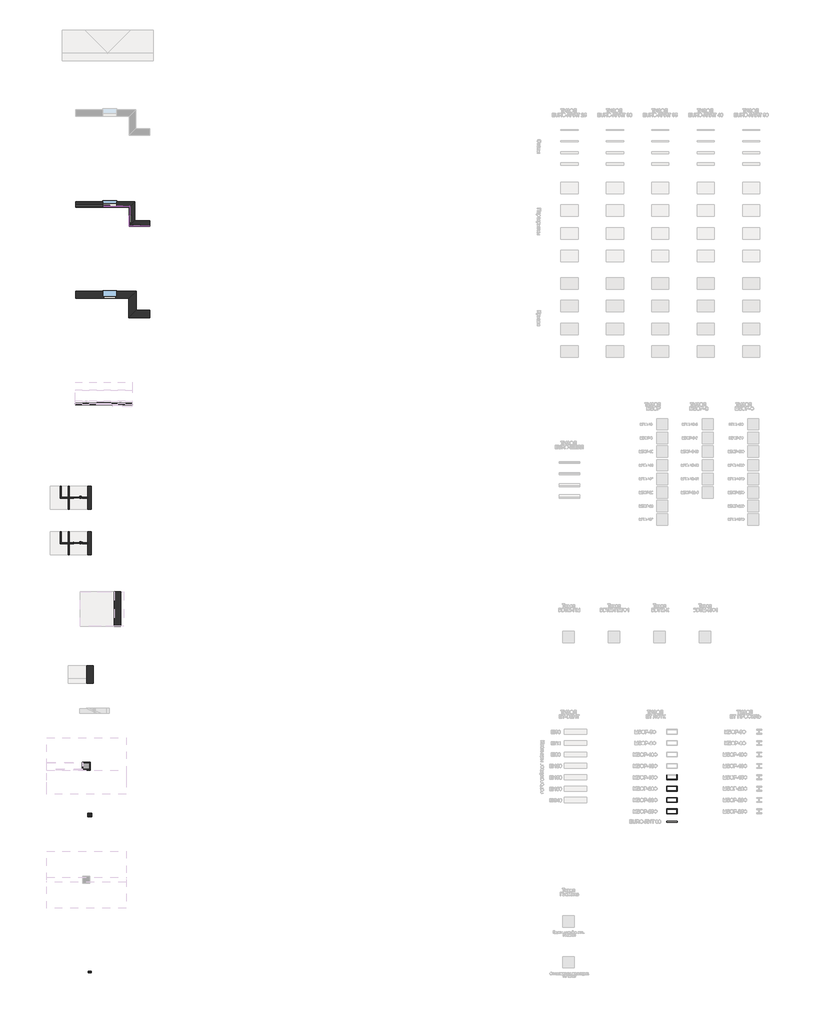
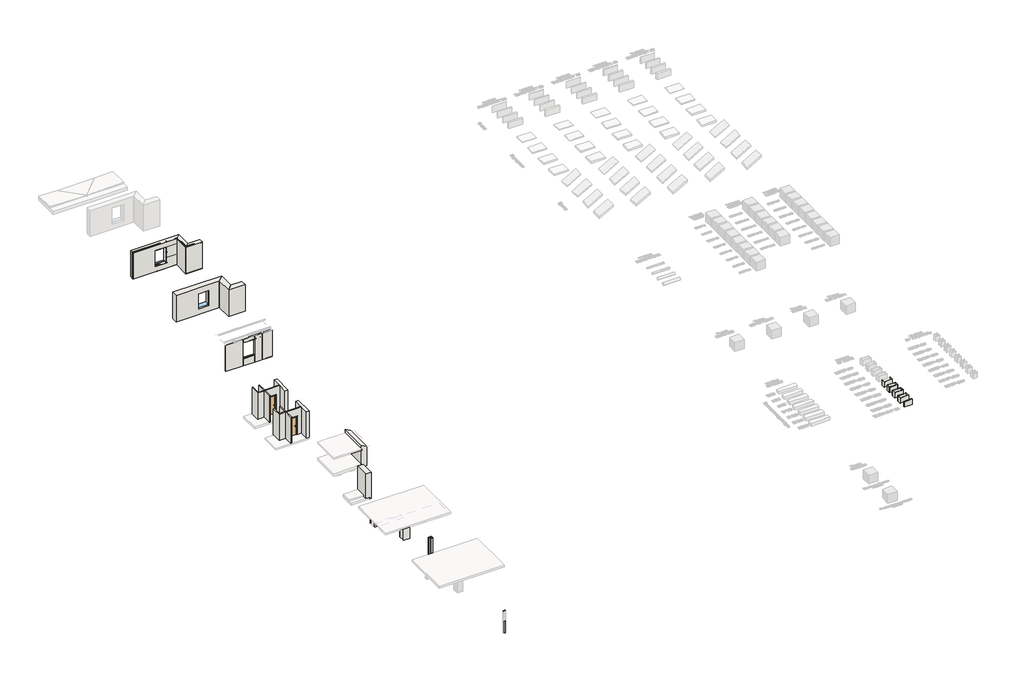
# One storey, part 1 of 35: 45 walls, 22 members, 13 plates, 3 windows, 2 doors.
"""IFC4 building model written with IfcOpenShell, lengths in millimetres."""

from ifc_helpers import new_model, si_unit, frame, origin, origin_with_axes, place, context, project, spatial, polyline, outline, extrude, faceted_brep, transform, mapped, element, save
from components import door_8c5e364b, member_1faf538f, member_ddb9c0fe, member_16139e31, member_8c236b06, member_76b97fcb, member_f79c86ad, member_24208849, member_6be1d5d3, member_23c07796, member_3a82393a, member_3fb5453b, plate_78243b5a, plate_e339b6bc, plate_2af0177e, plate_8300649d, plate_72cab72d, plate_bf13fc90, plate_7149e2ae, plate_8f87cec8, plate_a96cb64a, plate_872880df, window_e88b76e3, window_9803d0c4, window_cc363b5f

model = new_model("IFC4")

# Units and contexts
model_context = context("Model", 3, world=origin())
ifc_project = project(units=[si_unit("LENGTHUNIT", "METRE", prefix="MILLI")], contexts=[model_context])

# Site, building, storey
site = spatial("IfcSite", under=ifc_project)
building = spatial("IfcBuilding", under=site)
storey = spatial("IfcBuildingStorey", under=building, Name="Этаж 01", Elevation=0.0)

# Doors
placement = place(None, origin())
door_shape = door_8c5e364b(model_context)
element("IfcDoor", 1, ObjectType="AC_Дверь_Однопольная_ДеревяннаяВнутренняя_ГОСТ6629-88 : 760х2080h", at=placement, inside=storey, context=model_context, shape_type="MappedRepresentation", body=[
    mapped(door_shape, transform((-41236.1701961, -28570.4666904, 0.0), x_axis=(1.0, 0.0, 0.0), y_axis=(0.0, 1.0, 0.0), z_axis=(0.0, 0.0, 1.0))),
])
element("IfcDoor", 2, ObjectType="AC_Дверь_Однопольная_ДеревяннаяВнутренняя_ГОСТ6629-88 : 760х2080h", at=placement, inside=storey, context=model_context, shape_type="MappedRepresentation", body=[
    mapped(door_shape, transform((-41236.1701961, -32570.4666904, 0.0), x_axis=(1.0, 0.0, 0.0), y_axis=(0.0, 1.0, 0.0), z_axis=(0.0, 0.0, 1.0))),
])

# Members
member_shape = member_1faf538f(model_context)
element("IfcMember", 3, ObjectType="Прямоугольный импост : 40х50", at=placement, inside=storey, context=model_context, shape_type="MappedRepresentation", body=[
    mapped(member_shape, transform((-36720.3998597, -2897.1496422, 3000.0), x_axis=(1.0, 0.0, 0.0), y_axis=(0.0, 1.0, 0.0), z_axis=(0.0, 0.0, 1.0))),
])
member_2_shape = member_ddb9c0fe(model_context)
element("IfcMember", 4, ObjectType="Прямоугольный импост : 40х50", at=placement, inside=storey, context=model_context, shape_type="MappedRepresentation", body=[
    mapped(member_2_shape, transform((-37817.8998597, -2897.1496422, 0.0), x_axis=(-1.0, 0.0, 0.0), y_axis=(0.0, 1.0, 0.0), z_axis=(0.0, 0.0, -1.0))),
])
member_3_shape = member_16139e31(model_context)
element("IfcMember", 5, ObjectType="Прямоугольный импост : 40х50", at=placement, inside=storey, context=model_context, shape_type="MappedRepresentation", body=[
    mapped(member_3_shape, transform((-38442.8998597, -2897.1496422, 0.0), x_axis=(-1.0, 0.0, 0.0), y_axis=(0.0, 1.0, 0.0), z_axis=(0.0, 0.0, -1.0))),
])
member_4_shape = member_8c236b06(model_context)
element("IfcMember", 6, ObjectType="Прямоугольный импост : 40х50", at=placement, inside=storey, context=model_context, shape_type="MappedRepresentation", body=[
    mapped(member_4_shape, transform((-38442.8998597, -2897.1496422, 2410.0), x_axis=(-1.0, 0.0, 0.0), y_axis=(0.0, 1.0, 0.0), z_axis=(0.0, 0.0, -1.0))),
])
member_5_shape = member_76b97fcb(model_context)
element("IfcMember", 7, ObjectType="Прямоугольный импост : 40х50", at=placement, inside=storey, context=model_context, shape_type="MappedRepresentation", body=[
    mapped(member_5_shape, transform((-36620.3998597, -4442.1496422, 0.0), x_axis=(0.0, -1.0, 0.0), y_axis=(-1.0, 0.0, 0.0), z_axis=(0.0, 0.0, -1.0))),
])
element("IfcMember", 8, ObjectType="Прямоугольный импост : 40х50", at=placement, inside=storey, context=model_context, shape_type="MappedRepresentation", body=[
    mapped(member_5_shape, transform((-36620.3998597, -2997.1496422, 3000.0), x_axis=(0.0, 1.0, 0.0), y_axis=(-1.0, 0.0, 0.0), z_axis=(0.0, 0.0, 1.0))),
])
member_6_shape = member_f79c86ad(model_context)
element("IfcMember", 9, ObjectType="Прямоугольный импост : 40х50", at=placement, inside=storey, context=model_context, shape_type="MappedRepresentation", body=[
    mapped(member_6_shape, transform((-36620.3998597, -3719.6496422, 0.0), x_axis=(0.0, -1.0, 0.0), y_axis=(-1.0, 0.0, 0.0), z_axis=(0.0, 0.0, -1.0))),
])
element("IfcMember", 10, ObjectType="Прямоугольный импост : 40х50", at=placement, inside=storey, context=model_context, shape_type="MappedRepresentation", body=[
    mapped(member_2_shape, transform((-35742.8998597, -4597.1496422, 0.0), x_axis=(-1.0, 0.0, 0.0), y_axis=(0.0, 1.0, 0.0), z_axis=(0.0, 0.0, -1.0))),
])
element("IfcMember", 11, ObjectType="Прямоугольный импост : 40х50", at=placement, inside=storey, context=model_context, shape_type="MappedRepresentation", body=[
    mapped(member_shape, transform((-36465.3998597, -4597.1496422, 0.0), x_axis=(-1.0, 0.0, 0.0), y_axis=(0.0, 1.0, 0.0), z_axis=(0.0, 0.0, -1.0))),
])
element("IfcMember", 12, ObjectType="Прямоугольный импост : 40х50", at=placement, inside=storey, context=model_context, shape_type="MappedRepresentation", body=[
    mapped(member_shape, transform((-34942.8998597, -4597.1496422, 3000.0), x_axis=(1.0, 0.0, 0.0), y_axis=(0.0, 1.0, 0.0), z_axis=(0.0, 0.0, 1.0))),
])
member_7_shape = member_24208849(model_context)
element("IfcMember", 13, ObjectType="Прямоугольный импост : 40х50", at=placement, inside=storey, context=model_context, shape_type="MappedRepresentation", body=[
    mapped(member_7_shape, transform((-38933.8998597, -2947.1496422, 3000.0), x_axis=(0.0, 0.0, 1.0), y_axis=(0.0, 1.0, 0.0), z_axis=(-1.0, 0.0, 0.0))),
])
element("IfcMember", 14, ObjectType="Прямоугольный импост : 40х50", at=placement, inside=storey, context=model_context, shape_type="MappedRepresentation", body=[
    mapped(member_7_shape, transform((-36720.3998597, -2947.1496422, 0.0), x_axis=(0.0, 0.0, -1.0), y_axis=(0.0, 1.0, 0.0), z_axis=(1.0, 0.0, 0.0))),
])
member_8_shape = member_6be1d5d3(model_context)
element("IfcMember", 15, ObjectType="Прямоугольный импост : 40х50", at=placement, inside=storey, context=model_context, shape_type="MappedRepresentation", body=[
    mapped(member_8_shape, transform((-37837.8998597, -2947.1496422, 1810.0), x_axis=(0.0, 0.0, 1.0), y_axis=(0.0, 1.0, 0.0), z_axis=(-1.0, 0.0, 0.0))),
])
element("IfcMember", 16, ObjectType="Прямоугольный импост : 40х50", at=placement, inside=storey, context=model_context, shape_type="MappedRepresentation", body=[
    mapped(member_8_shape, transform((-37837.8998597, -2947.1496422, 1210.0), x_axis=(0.0, 0.0, 1.0), y_axis=(0.0, 1.0, 0.0), z_axis=(-1.0, 0.0, 0.0))),
])
member_9_shape = member_23c07796(model_context)
element("IfcMember", 17, ObjectType="Прямоугольный импост : 40х50", at=placement, inside=storey, context=model_context, shape_type="MappedRepresentation", body=[
    mapped(member_9_shape, transform((-37837.8998597, -2947.1496422, 2410.0), x_axis=(0.0, 0.0, -1.0), y_axis=(0.0, 1.0, 0.0), z_axis=(1.0, 0.0, 0.0))),
])
element("IfcMember", 18, ObjectType="Прямоугольный импост : 40х50", at=placement, inside=storey, context=model_context, shape_type="MappedRepresentation", body=[
    mapped(member_8_shape, transform((-37837.8998597, -2947.1496422, 2410.0), x_axis=(0.0, 0.0, 1.0), y_axis=(0.0, 1.0, 0.0), z_axis=(-1.0, 0.0, 0.0))),
])
element("IfcMember", 19, ObjectType="Прямоугольный импост : 40х50", at=placement, inside=storey, context=model_context, shape_type="MappedRepresentation", body=[
    mapped(member_8_shape, transform((-37837.8998597, -2947.1496422, 600.0), x_axis=(0.0, 0.0, 1.0), y_axis=(0.0, 1.0, 0.0), z_axis=(-1.0, 0.0, 0.0))),
])
element("IfcMember", 20, ObjectType="Прямоугольный импост : 40х50", at=placement, inside=storey, context=model_context, shape_type="MappedRepresentation", body=[
    mapped(member_9_shape, transform((-38933.8998597, -2947.1496422, 600.0), x_axis=(0.0, 0.0, 1.0), y_axis=(0.0, 1.0, 0.0), z_axis=(-1.0, 0.0, 0.0))),
])
member_10_shape = member_3a82393a(model_context)
element("IfcMember", 21, ObjectType="Прямоугольный импост : 40х50", at=placement, inside=storey, context=model_context, shape_type="MappedRepresentation", body=[
    mapped(member_10_shape, transform((-34942.8998597, -4647.1496422, 3000.0), x_axis=(0.0, 0.0, 1.0), y_axis=(0.0, -1.0, 0.0), z_axis=(1.0, 0.0, 0.0))),
])
element("IfcMember", 22, ObjectType="Прямоугольный импост : 40х50", at=placement, inside=storey, context=model_context, shape_type="MappedRepresentation", body=[
    mapped(member_10_shape, transform((-36720.3998597, -4647.1496422, 0.0), x_axis=(0.0, 0.0, -1.0), y_axis=(0.0, -1.0, 0.0), z_axis=(-1.0, 0.0, 0.0))),
])
member_11_shape = member_3fb5453b(model_context)
element("IfcMember", 23, ObjectType="Прямоугольный импост : 40х50", at=placement, inside=storey, context=model_context, shape_type="MappedRepresentation", body=[
    mapped(member_11_shape, transform((-36670.3998597, -4647.1496422, 3000.0), x_axis=(0.0, 0.0, 1.0), y_axis=(-1.0, 0.0, 0.0), z_axis=(0.0, -1.0, 0.0))),
])
element("IfcMember", 24, ObjectType="Прямоугольный импост : 40х50", at=placement, inside=storey, context=model_context, shape_type="MappedRepresentation", body=[
    mapped(member_11_shape, transform((-36670.3998597, -2947.1496422, 0.0), x_axis=(0.0, 0.0, -1.0), y_axis=(-1.0, 0.0, 0.0), z_axis=(0.0, 1.0, 0.0))),
])

# Plates
plate_shape = plate_78243b5a(model_context)
element("IfcPlate", 25, ObjectType="Пустая системная панель : Пустая системная панель", at=placement, inside=storey, context=model_context, shape_type="MappedRepresentation", body=[
    mapped(plate_shape, transform((-39952.8998597, -2897.1496422, 0.0), x_axis=(-1.0, 0.0, 0.0), y_axis=(0.0, -1.0, 0.0), z_axis=(0.0, 0.0, 1.0))),
])
plate_2_shape = plate_e339b6bc(model_context)
element("IfcPlate", 26, ObjectType="Пустая системная панель : Пустая системная панель", at=placement, inside=storey, context=model_context, shape_type="MappedRepresentation", body=[
    mapped(plate_2_shape, transform((-37279.1498597, -2897.1496422, 0.0), x_axis=(-1.0, 0.0, 0.0), y_axis=(0.0, -1.0, 0.0), z_axis=(0.0, 0.0, 1.0))),
])
plate_3_shape = plate_2af0177e(model_context)
element("IfcPlate", 27, ObjectType="Пустая системная панель : Пустая системная панель", at=placement, inside=storey, context=model_context, shape_type="MappedRepresentation", body=[
    mapped(plate_3_shape, transform((-36620.3998597, -3368.3996422, 0.0), x_axis=(0.0, -1.0, 0.0), y_axis=(1.0, 0.0, 0.0), z_axis=(0.0, 0.0, 1.0))),
])
element("IfcPlate", 28, ObjectType="Пустая системная панель : Пустая системная панель", at=placement, inside=storey, context=model_context, shape_type="MappedRepresentation", body=[
    mapped(plate_3_shape, transform((-36620.3998597, -4070.8996422, 0.0), x_axis=(0.0, -1.0, 0.0), y_axis=(1.0, 0.0, 0.0), z_axis=(0.0, 0.0, 1.0))),
])
element("IfcPlate", 29, ObjectType="Пустая системная панель : Пустая системная панель", at=placement, inside=storey, context=model_context, shape_type="MappedRepresentation", body=[
    mapped(plate_3_shape, transform((-36094.1498597, -4597.1496422, 0.0), x_axis=(-1.0, 0.0, 0.0), y_axis=(0.0, -1.0, 0.0), z_axis=(0.0, 0.0, 1.0))),
])
plate_4_shape = plate_8300649d(model_context)
element("IfcPlate", 30, ObjectType="Пустая системная панель : Пустая системная панель", at=placement, inside=storey, context=model_context, shape_type="MappedRepresentation", body=[
    mapped(plate_4_shape, transform((-35352.8998597, -4597.1496422, 0.0), x_axis=(-1.0, 0.0, 0.0), y_axis=(0.0, -1.0, 0.0), z_axis=(0.0, 0.0, 1.0))),
])
plate_5_shape = plate_72cab72d(model_context)
element("IfcPlate", 31, ObjectType="Пустая системная панель : Пустая системная панель", at=placement, inside=storey, context=model_context, shape_type="MappedRepresentation", body=[
    mapped(plate_5_shape, transform((-37827.1498597, -2947.1496422, 2430.0), x_axis=(-1.0, 0.0, 0.0), y_axis=(0.0, -1.0, 0.0), z_axis=(0.0, 0.0, 1.0))),
])
plate_6_shape = plate_bf13fc90(model_context)
element("IfcPlate", 32, ObjectType="Пустая системная панель : Пустая системная панель", at=placement, inside=storey, context=model_context, shape_type="MappedRepresentation", body=[
    mapped(plate_6_shape, transform((-37827.1498597, -2947.1496422, 40.0), x_axis=(-1.0, 0.0, 0.0), y_axis=(0.0, -1.0, 0.0), z_axis=(0.0, 0.0, 1.0))),
])
plate_7_shape = plate_7149e2ae(model_context)
element("IfcPlate", 33, ObjectType="Пустая системная панель : Пустая системная панель", at=placement, inside=storey, context=model_context, shape_type="MappedRepresentation", body=[
    mapped(plate_7_shape, transform((-37279.1498597, -2947.1496422, 620.0), x_axis=(-1.0, 0.0, 0.0), y_axis=(0.0, -1.0, 0.0), z_axis=(0.0, 0.0, 1.0))),
])
plate_8_shape = plate_8f87cec8(model_context)
element("IfcPlate", 34, ObjectType="Пустая системная панель : Пустая системная панель", at=placement, inside=storey, context=model_context, shape_type="MappedRepresentation", body=[
    mapped(plate_8_shape, transform((-37279.1498597, -2947.1496422, 1830.0), x_axis=(-1.0, 0.0, 0.0), y_axis=(0.0, -1.0, 0.0), z_axis=(0.0, 0.0, 1.0))),
])
element("IfcPlate", 35, ObjectType="Пустая системная панель : Пустая системная панель", at=placement, inside=storey, context=model_context, shape_type="MappedRepresentation", body=[
    mapped(plate_8_shape, transform((-37279.1498597, -2947.1496422, 1230.0), x_axis=(-1.0, 0.0, 0.0), y_axis=(0.0, -1.0, 0.0), z_axis=(0.0, 0.0, 1.0))),
])
plate_9_shape = plate_a96cb64a(model_context)
element("IfcPlate", 36, ObjectType="Пустая системная панель : Пустая системная панель", at=placement, inside=storey, context=model_context, shape_type="MappedRepresentation", body=[
    mapped(plate_9_shape, transform((-35831.6498597, -4647.1496422, 40.0), x_axis=(1.0, 0.0, 0.0), y_axis=(0.0, 1.0, 0.0), z_axis=(0.0, 0.0, 1.0))),
])
plate_10_shape = plate_872880df(model_context)
element("IfcPlate", 37, ObjectType="Пустая системная панель : Пустая системная панель", at=placement, inside=storey, context=model_context, shape_type="MappedRepresentation", body=[
    mapped(plate_10_shape, transform((-36670.3998597, -3797.1496422, 40.0), x_axis=(0.0, -1.0, 0.0), y_axis=(1.0, 0.0, 0.0), z_axis=(0.0, 0.0, 1.0))),
])

# Walls
element("IfcWall", 38, ObjectType="Наружная Бетон 200мм Утеплитель Тазол EURO ВЕНТ 150 мм Навесной фасад 110 мм", at=placement, inside=storey, context=model_context, shape_type="Brep", body=[
    faceted_brep([(-41442.8998597, -3007.1496422, 0.0), (-36730.3998597, -3007.1496422, 0.0), (-36730.3998597, -3007.1496422, 3000.0), (-41442.8998597, -3007.1496422, 3000.0), (-39047.8998597, -3007.1496422, 2410.0), (-37837.8998597, -3007.1496422, 2410.0), (-37837.8998597, -3007.1496422, 600.0), (-39047.8998597, -3007.1496422, 600.0), (-41442.8998597, -2522.1496422, 0.0), (-41442.8998597, -2522.1496422, 3000.0), (-36245.3998597, -2522.1496422, 3000.0), (-36245.3998597, -2522.1496422, 0.0), (-37837.8998597, -2522.1496422, 2410.0), (-39047.8998597, -2522.1496422, 2410.0), (-39047.8998597, -2522.1496422, 600.0), (-37837.8998597, -2522.1496422, 600.0)], [[[0, 1, 2, 3], [4, 5, 6, 7]], [[8, 9, 10, 11], [12, 13, 14, 15]], [[1, 0, 8, 11]], [[3, 2, 10, 9]], [[0, 3, 9, 8]], [[2, 1, 11, 10]], [[13, 12, 5, 4]], [[14, 13, 4, 7]], [[15, 14, 7, 6]], [[5, 12, 15, 6]]]),
])
element("IfcWall", 39, ObjectType="Наружная Бетон 200мм Утеплитель Тазол EURO ВЕНТ 150 мм Навесной фасад 110 мм", at=placement, inside=storey, context=model_context, shape_type="SweptSolid", body=[
    extrude(outline(polyline([(-36730.3998597, -4707.1496422), (-36730.3998597, -3007.1496422), (-36245.3998597, -2522.1496422), (-36245.3998597, -4222.1496422), (-36730.3998597, -4707.1496422)])), origin_with_axes(), (0.0, 0.0, 1.0), 3000.0),
])
element("IfcWall", 40, ObjectType="Наружная Бетон 200мм Утеплитель Тазол EURO ВЕНТ 150 мм Навесной фасад 110 мм", at=placement, inside=storey, context=model_context, shape_type="SweptSolid", body=[
    extrude(outline(polyline([(-34942.8998597, -4707.1496422), (-36730.3998597, -4707.1496422), (-36245.3998597, -4222.1496422), (-34942.8998597, -4222.1496422), (-34942.8998597, -4707.1496422)])), origin_with_axes(), (0.0, 0.0, 1.0), 3000.0),
])
element("IfcWall", 41, ObjectType="Наружная Кирпич 380мм Утеплитель Тазол EURO БЛОК 100 мм Облицовочный кирпич 120мм", at=placement, inside=storey, context=model_context, shape_type="Brep", body=[
    faceted_brep([(-41442.8998597, -11034.6496422, 0.0), (-36757.8998597, -11034.6496422, 0.0), (-36757.8998597, -11034.6496422, 3000.0), (-41442.8998597, -11034.6496422, 3000.0), (-37902.8998597, -11034.6496422, 600.0), (-38982.8998597, -11034.6496422, 600.0), (-38982.8998597, -11034.6496422, 2335.0), (-37902.8998597, -11034.6496422, 2335.0), (-41442.8998597, -10404.6496422, 0.0), (-41442.8998597, -10404.6496422, 3000.0), (-36127.8998597, -10404.6496422, 3000.0), (-36127.8998597, -10404.6496422, 0.0), (-37837.8998597, -10404.6496422, 2410.0), (-39047.8998597, -10404.6496422, 2410.0), (-39047.8998597, -10404.6496422, 600.0), (-37837.8998597, -10404.6496422, 600.0), (-37837.8998597, -10904.6496422, 2410.0), (-39047.8998597, -10904.6496422, 2410.0), (-39047.8998597, -10904.6496422, 600.0), (-38982.8998597, -10904.6496422, 600.0), (-37902.8998597, -10904.6496422, 600.0), (-37837.8998597, -10904.6496422, 600.0), (-37902.8998597, -10904.6496422, 2335.0), (-38982.8998597, -10904.6496422, 2335.0)], [[[0, 1, 2, 3], [4, 5, 6, 7]], [[8, 9, 10, 11], [12, 13, 14, 15]], [[1, 0, 8, 11]], [[3, 2, 10, 9]], [[0, 3, 9, 8]], [[2, 1, 11, 10]], [[16, 17, 13, 12]], [[17, 18, 14, 13]], [[14, 18, 19, 5, 4, 20, 21, 15]], [[21, 16, 12, 15]], [[16, 21, 20, 22, 23, 19, 18, 17]], [[22, 7, 6, 23]], [[23, 6, 5, 19]], [[7, 22, 20, 4]]]),
])
element("IfcWall", 42, ObjectType="Наружная Кирпич 380мм Утеплитель Тазол EURO БЛОК 100 мм Облицовочный кирпич 120мм", at=placement, inside=storey, context=model_context, shape_type="SweptSolid", body=[
    extrude(outline(polyline([(-36757.8998597, -12734.6496422), (-36757.8998597, -11034.6496422), (-36127.8998597, -10404.6496422), (-36127.8998597, -12104.6496422), (-36757.8998597, -12734.6496422)])), origin_with_axes(), (0.0, 0.0, 1.0), 3000.0),
])
element("IfcWall", 43, ObjectType="Наружная Кирпич 380мм Утеплитель Тазол EURO БЛОК 100 мм Облицовочный кирпич 120мм", at=placement, inside=storey, context=model_context, shape_type="SweptSolid", body=[
    extrude(outline(polyline([(-34942.8998597, -12734.6496422), (-36757.8998597, -12734.6496422), (-36127.8998597, -12104.6496422), (-34942.8998597, -12104.6496422), (-34942.8998597, -12734.6496422)])), origin_with_axes(), (0.0, 0.0, 1.0), 3000.0),
])
element("IfcWall", 44, ObjectType="Каркасная стена Профлист С-20 Утеплитель Тизол EURO ЛАЙТ 50 100мм Профлист С-20", at=placement, inside=storey, context=model_context, shape_type="Brep", body=[
    faceted_brep([(-41475.0301385, -20409.5243348, 0.0), (-36475.0301385, -20409.5243348, 0.0), (-36475.0301385, -20409.5243348, 3000.0), (-41475.0301385, -20409.5243348, 3000.0), (-39580.0301385, -20409.5243348, 2610.0), (-38370.0301385, -20409.5243348, 2610.0), (-38370.0301385, -20409.5243348, 800.0), (-39580.0301385, -20409.5243348, 800.0), (-41475.0301385, -20259.5243348, 0.0), (-41475.0301385, -20259.5243348, 3040.1923789), (-36475.0301385, -20259.5243348, 3040.1923789), (-36475.0301385, -20259.5243348, 0.0), (-38370.0301385, -20259.5243348, 2610.0), (-39580.0301385, -20259.5243348, 2610.0), (-39580.0301385, -20259.5243348, 800.0), (-38370.0301385, -20259.5243348, 800.0)], [[[0, 1, 2, 3], [4, 5, 6, 7]], [[8, 9, 10, 11], [12, 13, 14, 15]], [[1, 0, 8, 11]], [[2, 1, 11, 10]], [[0, 3, 9, 8]], [[3, 2, 10, 9]], [[13, 12, 5, 4]], [[14, 13, 4, 7]], [[15, 14, 7, 6]], [[5, 12, 15, 6]]]),
])
element("IfcWall", 45, ObjectType="ADSK_Внутренняя_Бетон_300", at=placement, inside=storey, context=model_context, shape_type="Brep", body=[
    faceted_brep([(-40086.1701961, -29570.4666904, 0.0), (-40086.1701961, -27570.4666904, 0.0), (-40086.1701961, -27570.4666904, 3000.0), (-40086.1701961, -29570.4666904, 3000.0), (-40386.1701961, -29570.4666904, 0.0), (-40386.1701961, -29570.4666904, 3000.0), (-40386.1701961, -28620.4666904, 3000.0), (-40386.1701961, -28520.4666904, 3000.0), (-40386.1701961, -27570.4666904, 3000.0), (-40386.1701961, -27570.4666904, 0.0), (-40386.1701961, -28520.4666904, 0.0), (-40386.1701961, -28620.4666904, 0.0)], [[[0, 1, 2, 3]], [[4, 5, 6, 7, 8, 9, 10, 11]], [[1, 0, 4, 11, 10, 9]], [[2, 1, 9, 8]], [[3, 2, 8, 7, 6, 5]], [[0, 3, 5, 4]]]),
])
element("IfcWall", 46, ObjectType="Перегородка_ГКЛ_100 Звукоизоляция Тизол EURO-ЛАЙТ 25", at=placement, inside=storey, context=model_context, shape_type="Brep", body=[
    faceted_brep([(-41636.1701961, -28520.4666904, 2100.0), (-41636.1701961, -28520.4666904, 0.0), (-41986.1701961, -28520.4666904, 0.0), (-42086.1701961, -28520.4666904, 0.0), (-42686.1701961, -28520.4666904, 0.0), (-42686.1701961, -28520.4666904, 3000.0), (-42086.1701961, -28520.4666904, 3000.0), (-41986.1701961, -28520.4666904, 3000.0), (-40386.1701961, -28520.4666904, 3000.0), (-40386.1701961, -28520.4666904, 0.0), (-40836.1701961, -28520.4666904, 0.0), (-40836.1701961, -28520.4666904, 2100.0), (-42786.1701961, -28620.4666904, 0.0), (-42086.1701961, -28620.4666904, 0.0), (-41986.1701961, -28620.4666904, 0.0), (-41636.1701961, -28620.4666904, 0.0), (-41636.1701961, -28620.4666904, 2100.0), (-40836.1701961, -28620.4666904, 2100.0), (-40836.1701961, -28620.4666904, 0.0), (-40386.1701961, -28620.4666904, 0.0), (-40386.1701961, -28620.4666904, 3000.0), (-41986.1701961, -28620.4666904, 3000.0), (-42086.1701961, -28620.4666904, 3000.0), (-42786.1701961, -28620.4666904, 3000.0)], [[[0, 1, 2, 3, 4, 5, 6, 7, 8, 9, 10, 11]], [[12, 13, 14, 15, 16, 17, 18, 19, 20, 21, 22, 23]], [[10, 9, 19, 18]], [[4, 3, 2, 1, 15, 14, 13, 12]], [[8, 7, 6, 5, 23, 22, 21, 20]], [[9, 8, 20, 19]], [[5, 4, 12, 23]], [[16, 15, 1, 0]], [[17, 16, 0, 11]], [[18, 17, 11, 10]]]),
])
element("IfcWall", 47, ObjectType="Перегородка_ГКЛ_100 Звукоизоляция Тизол EURO-ЛАЙТ 25", at=placement, inside=storey, context=model_context, shape_type="SweptSolid", body=[
    extrude(outline(polyline([(-42686.1701961, -27570.4666904), (-42686.1701961, -28520.4666904), (-42786.1701961, -28620.4666904), (-42786.1701961, -27570.4666904), (-42686.1701961, -27570.4666904)])), origin_with_axes(), (0.0, 0.0, 1.0), 3000.0),
])
element("IfcWall", 48, ObjectType="Перегородка_ГКЛ_100 Звукоизоляция Тизол EURO-ЛАЙТ 25", at=placement, inside=storey, context=model_context, shape_type="SweptSolid", body=[
    extrude(outline(polyline([(-42086.1701961, -27570.4666904), (-41986.1701961, -27570.4666904), (-41986.1701961, -28520.4666904), (-42086.1701961, -28520.4666904), (-42086.1701961, -27570.4666904)])), origin_with_axes(), (0.0, 0.0, 1.0), 3000.0),
    extrude(outline(polyline([(-41986.1701961, -29570.4666904), (-42086.1701961, -29570.4666904), (-42086.1701961, -28620.4666904), (-41986.1701961, -28620.4666904), (-41986.1701961, -29570.4666904)])), origin_with_axes(), (0.0, 0.0, 1.0), 3000.0),
])
element("IfcWall", 49, ObjectType="ADSK_Внутренняя_Бетон_300", at=placement, inside=storey, context=model_context, shape_type="Brep", body=[
    faceted_brep([(-40086.1701961, -33570.4666904, 0.0), (-40086.1701961, -31570.4666904, 0.0), (-40086.1701961, -31570.4666904, 3000.0), (-40086.1701961, -33570.4666904, 3000.0), (-40386.1701961, -33570.4666904, 0.0), (-40386.1701961, -33570.4666904, 3000.0), (-40386.1701961, -32620.4666904, 3000.0), (-40386.1701961, -32520.4666904, 3000.0), (-40386.1701961, -31570.4666904, 3000.0), (-40386.1701961, -31570.4666904, 0.0), (-40386.1701961, -32520.4666904, 0.0), (-40386.1701961, -32620.4666904, 0.0)], [[[0, 1, 2, 3]], [[4, 5, 6, 7, 8, 9, 10, 11]], [[1, 0, 4, 11, 10, 9]], [[2, 1, 9, 8]], [[3, 2, 8, 7, 6, 5]], [[0, 3, 5, 4]]]),
])
element("IfcWall", 50, ObjectType="Перегородка_ГКЛ_100 Звукоизоляция Тизол EURO-ЛАЙТ 25", at=placement, inside=storey, context=model_context, shape_type="Brep", body=[
    faceted_brep([(-41636.1701961, -32520.4666904, 2100.0), (-41636.1701961, -32520.4666904, 0.0), (-41986.1701961, -32520.4666904, 0.0), (-42086.1701961, -32520.4666904, 0.0), (-42686.1701961, -32520.4666904, 0.0), (-42686.1701961, -32520.4666904, 3000.0), (-42086.1701961, -32520.4666904, 3000.0), (-41986.1701961, -32520.4666904, 3000.0), (-40386.1701961, -32520.4666904, 3000.0), (-40386.1701961, -32520.4666904, 0.0), (-40836.1701961, -32520.4666904, 0.0), (-40836.1701961, -32520.4666904, 2100.0), (-42786.1701961, -32620.4666904, 0.0), (-42086.1701961, -32620.4666904, 0.0), (-41986.1701961, -32620.4666904, 0.0), (-41636.1701961, -32620.4666904, 0.0), (-41636.1701961, -32620.4666904, 2100.0), (-40836.1701961, -32620.4666904, 2100.0), (-40836.1701961, -32620.4666904, 0.0), (-40386.1701961, -32620.4666904, 0.0), (-40386.1701961, -32620.4666904, 3000.0), (-41986.1701961, -32620.4666904, 3000.0), (-42086.1701961, -32620.4666904, 3000.0), (-42786.1701961, -32620.4666904, 3000.0)], [[[0, 1, 2, 3, 4, 5, 6, 7, 8, 9, 10, 11]], [[12, 13, 14, 15, 16, 17, 18, 19, 20, 21, 22, 23]], [[10, 9, 19, 18]], [[4, 3, 2, 1, 15, 14, 13, 12]], [[8, 7, 6, 5, 23, 22, 21, 20]], [[9, 8, 20, 19]], [[5, 4, 12, 23]], [[16, 15, 1, 0]], [[17, 16, 0, 11]], [[18, 17, 11, 10]]]),
])
element("IfcWall", 51, ObjectType="Перегородка_ГКЛ_100 Звукоизоляция Тизол EURO-ЛАЙТ 25", at=placement, inside=storey, context=model_context, shape_type="SweptSolid", body=[
    extrude(outline(polyline([(-42686.1701961, -31570.4666904), (-42686.1701961, -32520.4666904), (-42786.1701961, -32620.4666904), (-42786.1701961, -31570.4666904), (-42686.1701961, -31570.4666904)])), origin_with_axes(), (0.0, 0.0, 1.0), 3000.0),
])
element("IfcWall", 52, ObjectType="Перегородка_ГКЛ_100 Звукоизоляция Тизол EURO-ЛАЙТ 25", at=placement, inside=storey, context=model_context, shape_type="SweptSolid", body=[
    extrude(outline(polyline([(-42086.1701961, -31570.4666904), (-41986.1701961, -31570.4666904), (-41986.1701961, -32520.4666904), (-42086.1701961, -32520.4666904), (-42086.1701961, -31570.4666904)])), origin_with_axes(), (0.0, 0.0, 1.0), 3000.0),
    extrude(outline(polyline([(-41986.1701961, -33570.4666904), (-42086.1701961, -33570.4666904), (-42086.1701961, -32620.4666904), (-41986.1701961, -32620.4666904), (-41986.1701961, -33570.4666904)])), origin_with_axes(), (0.0, 0.0, 1.0), 3000.0),
])
element("IfcWall", 53, ObjectType="Наружная Кирпич 380мм Утеплитель Тазол EURO Фасад 150 мм Штукатурный фасад", at=placement, inside=storey, context=model_context, shape_type="SweptSolid", body=[
    extrude(outline(polyline([(-300.0, -37489.6755112), (1873.2050808, -37489.6755112), (2205.1814855, -38064.6755112), (1800.0, -38064.6755112), (1800.0, -38044.6755112), (1613.0, -38044.6755112), (1613.0, -38064.6755112), (0.0, -38064.6755112), (0.0, -38044.6755112), (-300.0, -38044.6755112), (-300.0, -37489.6755112)])), frame((0.0, -39859.6455937, 0.0), z_axis=(0.0, 1.0, 0.0), x_axis=(0.0, 0.0, 1.0)), (0.0, 0.0, 1.0), 3000.0),
])
element("IfcWall", 54, ObjectType="Наружная Кирпич 380мм Утеплитель Тазол EURO Фасад 150 мм Штукатурный фасад", at=placement, inside=storey, context=model_context, shape_type="Brep", body=[
    faceted_brep([(-39911.1701961, -44870.4666904, -200.0), (-39911.1701961, -43370.4666904, -200.0), (-39911.1701961, -43370.4666904, 2800.0), (-39911.1701961, -44870.4666904, 2800.0), (-40486.1701961, -44870.4666904, 2800.0), (-40486.1701961, -43370.4666904, 2800.0), (-40486.1701961, -43370.4666904, 140.0), (-40486.1701961, -44470.4666904, 140.0), (-40486.1701961, -44470.4666904, 0.0), (-40486.1701961, -44870.4666904, 0.0), (-40086.1701961, -44870.4666904, -200.0), (-40086.1701961, -43370.4666904, -200.0), (-40086.1701961, -43370.4666904, 0.0), (-40466.1701961, -43370.4666904, 0.0), (-40466.1701961, -43370.4666904, 140.0), (-40086.1701961, -44870.4666904, 0.0), (-40466.1701961, -44470.4666904, 140.0), (-40466.1701961, -44470.4666904, 0.0)], [[[0, 1, 2, 3]], [[4, 5, 6, 7, 8, 9]], [[1, 0, 10, 11]], [[2, 1, 11, 12, 13, 14, 6, 5]], [[3, 2, 5, 4]], [[0, 3, 4, 9, 15, 10]], [[14, 16, 7, 6]], [[16, 17, 8, 7]], [[16, 14, 13, 17]], [[12, 15, 9, 8, 17, 13]], [[15, 12, 11, 10]]]),
])
element("IfcWall", 55, ObjectType="Тизол EURO-ЛИТ 150 (50мм)", at=placement, inside=storey, context=model_context, shape_type="SweptSolid", body=[
    extrude(outline(polyline([(-40850.5104743, -52470.4666904), (-40850.5104743, -51870.4666904), (-40800.5104743, -51870.4666904), (-40800.5104743, -52470.4666904), (-40850.5104743, -52470.4666904)])), origin_with_axes(), (0.0, 0.0, 1.0), 2600.0),
])
element("IfcWall", 56, ObjectType="Тизол EURO-ЛИТ 150 (50мм)", at=placement, inside=storey, context=model_context, shape_type="SweptSolid", body=[
    extrude(outline(polyline([(-40200.5104743, -52470.4666904), (-40200.5104743, -51870.4666904), (-40150.5104743, -51870.4666904), (-40150.5104743, -52470.4666904), (-40200.5104743, -52470.4666904)])), origin_with_axes(), (0.0, 0.0, 1.0), 2600.0),
])
element("IfcWall", 57, ObjectType="Тизол EURO-ЛИТ 150 (50мм)", at=placement, inside=storey, context=model_context, shape_type="Brep", body=[
    faceted_brep([(-40150.5104743, -52470.4666904, 0.0), (-40200.5104743, -52470.4666904, 0.0), (-40800.5104743, -52470.4666904, 0.0), (-40850.5104743, -52470.4666904, 0.0), (-40850.5104743, -52470.4666904, 2550.0), (-40850.5104743, -52470.4666904, 2600.0), (-44000.5104743, -52470.4666904, 2600.0), (-44000.5104743, -52470.4666904, 3000.0), (-37000.5104743, -52470.4666904, 3000.0), (-37000.5104743, -52470.4666904, 2600.0), (-40150.5104743, -52470.4666904, 2600.0), (-40150.5104743, -52470.4666904, 2550.0), (-40850.5104743, -52520.4666904, 0.0), (-40150.5104743, -52520.4666904, 0.0), (-40150.5104743, -52520.4666904, 2550.0), (-40150.5104743, -52520.4666904, 2600.0), (-37000.5104743, -52520.4666904, 2600.0), (-37000.5104743, -52520.4666904, 2950.0), (-37000.5104743, -52520.4666904, 3000.0), (-44000.5104743, -52520.4666904, 3000.0), (-44000.5104743, -52520.4666904, 2950.0), (-44000.5104743, -52520.4666904, 2600.0), (-40850.5104743, -52520.4666904, 2600.0), (-40850.5104743, -52520.4666904, 2550.0)], [[[0, 1, 2, 3, 4, 5, 6, 7, 8, 9, 10, 11]], [[12, 13, 14, 15, 16, 17, 18, 19, 20, 21, 22, 23]], [[3, 2, 1, 0, 13, 12]], [[3, 12, 23, 22, 5, 4]], [[8, 7, 19, 18]], [[13, 0, 11, 10, 15, 14]], [[6, 5, 22, 21]], [[7, 6, 21, 20, 19]], [[9, 8, 18, 17, 16]], [[10, 9, 16, 15]]]),
])
element("IfcWall", 58, ObjectType="Тизол EURO-ЛИТ 150 (50мм)", at=placement, inside=storey, context=model_context, shape_type="Brep", body=[
    faceted_brep([(-40150.5104743, -51820.4666904, 0.0), (-40850.5104743, -51820.4666904, 0.0), (-40850.5104743, -51820.4666904, 2550.0), (-40850.5104743, -51820.4666904, 2600.0), (-44000.5104743, -51820.4666904, 2600.0), (-44000.5104743, -51820.4666904, 2950.0), (-44000.5104743, -51820.4666904, 3000.0), (-37000.5104743, -51820.4666904, 3000.0), (-37000.5104743, -51820.4666904, 2950.0), (-37000.5104743, -51820.4666904, 2600.0), (-40150.5104743, -51820.4666904, 2600.0), (-40150.5104743, -51820.4666904, 2550.0), (-40850.5104743, -51870.4666904, 0.0), (-40800.5104743, -51870.4666904, 0.0), (-40200.5104743, -51870.4666904, 0.0), (-40150.5104743, -51870.4666904, 0.0), (-40150.5104743, -51870.4666904, 2550.0), (-40150.5104743, -51870.4666904, 2600.0), (-37000.5104743, -51870.4666904, 2600.0), (-37000.5104743, -51870.4666904, 3000.0), (-44000.5104743, -51870.4666904, 3000.0), (-44000.5104743, -51870.4666904, 2600.0), (-40850.5104743, -51870.4666904, 2600.0), (-40850.5104743, -51870.4666904, 2550.0)], [[[0, 1, 2, 3, 4, 5, 6, 7, 8, 9, 10, 11]], [[12, 13, 14, 15, 16, 17, 18, 19, 20, 21, 22, 23]], [[1, 0, 15, 14, 13, 12]], [[1, 12, 23, 22, 3, 2]], [[7, 6, 20, 19]], [[15, 0, 11, 10, 17, 16]], [[4, 3, 22, 21]], [[21, 20, 6, 5, 4]], [[19, 18, 9, 8, 7]], [[10, 9, 18, 17]]]),
])
element("IfcWall", 59, ObjectType="Тизол EURO-ЛИТ 150 (50мм)", at=placement, inside=storey, context=model_context, shape_type="Brep", body=[
    faceted_brep([(-40355.5104743, -56390.4666904, 0.0), (-40305.5104743, -56390.4666904, 0.0), (-40095.5104743, -56390.4666904, 0.0), (-40095.5104743, -56390.4666904, 2500.0), (-40305.5104743, -56390.4666904, 2500.0), (-40355.5104743, -56390.4666904, 2500.0), (-40355.5104743, -56340.4666904, 0.0), (-40355.5104743, -56340.4666904, 2500.0), (-40095.5104743, -56340.4666904, 2500.0), (-40095.5104743, -56340.4666904, 0.0)], [[[0, 1, 2, 3, 4, 5]], [[6, 7, 8, 9]], [[2, 1, 0, 6, 9]], [[5, 4, 3, 8, 7]], [[0, 5, 7, 6]], [[3, 2, 9, 8]]]),
])
element("IfcWall", 60, ObjectType="Тизол EURO-ЛИТ 150 (50мм)", at=placement, inside=storey, context=model_context, shape_type="Brep", body=[
    faceted_brep([(-40305.5104743, -56650.4666904, 0.0), (-40305.5104743, -56600.4666904, 0.0), (-40305.5104743, -56390.4666904, 0.0), (-40305.5104743, -56390.4666904, 2500.0), (-40305.5104743, -56600.4666904, 2500.0), (-40305.5104743, -56650.4666904, 2500.0), (-40355.5104743, -56650.4666904, 0.0), (-40355.5104743, -56650.4666904, 2500.0), (-40355.5104743, -56390.4666904, 2500.0), (-40355.5104743, -56390.4666904, 0.0)], [[[0, 1, 2, 3, 4, 5]], [[6, 7, 8, 9]], [[2, 1, 0, 6, 9]], [[5, 4, 3, 8, 7]], [[0, 5, 7, 6]], [[3, 2, 9, 8]]]),
])
element("IfcWall", 61, ObjectType="Тизол EURO-ЛИТ 150 (50мм)", at=placement, inside=storey, context=model_context, shape_type="Brep", body=[
    faceted_brep([(-40045.5104743, -56600.4666904, 0.0), (-40095.5104743, -56600.4666904, 0.0), (-40305.5104743, -56600.4666904, 0.0), (-40305.5104743, -56600.4666904, 2500.0), (-40095.5104743, -56600.4666904, 2500.0), (-40045.5104743, -56600.4666904, 2500.0), (-40045.5104743, -56650.4666904, 0.0), (-40045.5104743, -56650.4666904, 2500.0), (-40305.5104743, -56650.4666904, 2500.0), (-40305.5104743, -56650.4666904, 0.0)], [[[0, 1, 2, 3, 4, 5]], [[6, 7, 8, 9]], [[2, 1, 0, 6, 9]], [[5, 4, 3, 8, 7]], [[0, 5, 7, 6]], [[3, 2, 9, 8]]]),
])
element("IfcWall", 62, ObjectType="Тизол EURO-ЛИТ 150 (50мм)", at=placement, inside=storey, context=model_context, shape_type="Brep", body=[
    faceted_brep([(-40095.5104743, -56340.4666904, 0.0), (-40095.5104743, -56390.4666904, 0.0), (-40095.5104743, -56600.4666904, 0.0), (-40095.5104743, -56600.4666904, 2500.0), (-40095.5104743, -56390.4666904, 2500.0), (-40095.5104743, -56340.4666904, 2500.0), (-40045.5104743, -56340.4666904, 0.0), (-40045.5104743, -56340.4666904, 2500.0), (-40045.5104743, -56600.4666904, 2500.0), (-40045.5104743, -56600.4666904, 0.0)], [[[0, 1, 2, 3, 4, 5]], [[6, 7, 8, 9]], [[2, 1, 0, 6, 9]], [[5, 4, 3, 8, 7]], [[0, 5, 7, 6]], [[3, 2, 9, 8]]]),
])
element("IfcWall", 63, ObjectType="Тизол EURO-ЛИТ 150 (80мм)", at=placement, inside=storey, context=model_context, shape_type="SweptSolid", body=[
    extrude(outline(polyline([(-40118.0104743, -56478.4666904), (-40283.0104743, -56478.4666904), (-40283.0104743, -56398.4666904), (-40118.0104743, -56398.4666904), (-40118.0104743, -56478.4666904)])), origin_with_axes(), (0.0, 0.0, 1.0), 2500.0),
])
element("IfcWall", 64, ObjectType="Тизол EURO-ЛИТ 150 (80мм)", at=placement, inside=storey, context=model_context, shape_type="SweptSolid", body=[
    extrude(outline(polyline([(-40118.0104743, -56592.4666904), (-40283.0104743, -56592.4666904), (-40283.0104743, -56512.4666904), (-40118.0104743, -56512.4666904), (-40118.0104743, -56592.4666904)])), origin_with_axes(), (0.0, 0.0, 1.0), 2500.0),
])
element("IfcWall", 65, ObjectType="Тизол EURO-ЛИТ 150 (60мм)", at=placement, inside=storey, context=model_context, shape_type="SweptSolid", body=[
    extrude(outline(polyline([(-40085.5104743, -70280.4839783), (-40315.5104743, -70280.4839783), (-40315.5104743, -70220.4839783), (-40085.5104743, -70220.4839783), (-40085.5104743, -70280.4839783)])), origin_with_axes(), (0.0, 0.0, 1.0), 2500.0),
])
element("IfcWall", 66, ObjectType="Тизол EURO-ЛИТ 150 (60мм)", at=placement, inside=storey, context=model_context, shape_type="SweptSolid", body=[
    extrude(outline(polyline([(-40085.5104743, -70359.4839783), (-40315.5104743, -70359.4839783), (-40315.5104743, -70299.4839783), (-40085.5104743, -70299.4839783), (-40085.5104743, -70359.4839783)])), origin_with_axes(), (0.0, 0.0, 1.0), 1336.4754413),
])
element("IfcWall", 67, ObjectType="Тизол МБОР-16Ф", at=placement, inside=storey, context=model_context, shape_type="Brep", body=[
    faceted_brep([(10558.8215627, -53365.5493767, 0.0), (10558.8215627, -53349.5493767, 0.0), (10558.8215627, -52965.5493767, 0.0), (10558.8215627, -52965.5493767, 600.0), (10558.8215627, -53349.5493767, 600.0), (10558.8215627, -53365.5493767, 600.0), (10542.8215627, -53365.5493767, 0.0), (10542.8215627, -53365.5493767, 600.0), (10542.8215627, -52965.5493767, 600.0), (10542.8215627, -52965.5493767, 0.0)], [[[0, 1, 2, 3, 4, 5]], [[6, 7, 8, 9]], [[2, 1, 0, 6, 9]], [[5, 4, 3, 8, 7]], [[0, 5, 7, 6]], [[3, 2, 9, 8]]]),
])
element("IfcWall", 68, ObjectType="Тизол МБОР-16Ф", at=placement, inside=storey, context=model_context, shape_type="Brep", body=[
    faceted_brep([(11458.8215627, -53349.5493767, 0.0), (11442.8215627, -53349.5493767, 0.0), (10558.8215627, -53349.5493767, 0.0), (10558.8215627, -53349.5493767, 600.0), (11442.8215627, -53349.5493767, 600.0), (11458.8215627, -53349.5493767, 600.0), (11458.8215627, -53365.5493767, 0.0), (11458.8215627, -53365.5493767, 600.0), (10558.8215627, -53365.5493767, 600.0), (10558.8215627, -53365.5493767, 0.0)], [[[0, 1, 2, 3, 4, 5]], [[6, 7, 8, 9]], [[2, 1, 0, 6, 9]], [[5, 4, 3, 8, 7]], [[0, 5, 7, 6]], [[3, 2, 9, 8]]]),
])
element("IfcWall", 69, ObjectType="Тизол МБОР-16Ф", at=placement, inside=storey, context=model_context, shape_type="Brep", body=[
    faceted_brep([(11442.8215627, -52949.5493767, 0.0), (11442.8215627, -52965.5493767, 0.0), (11442.8215627, -53349.5493767, 0.0), (11442.8215627, -53349.5493767, 600.0), (11442.8215627, -52965.5493767, 600.0), (11442.8215627, -52949.5493767, 600.0), (11458.8215627, -52949.5493767, 0.0), (11458.8215627, -52949.5493767, 600.0), (11458.8215627, -53349.5493767, 600.0), (11458.8215627, -53349.5493767, 0.0)], [[[0, 1, 2, 3, 4, 5]], [[6, 7, 8, 9]], [[2, 1, 0, 6, 9]], [[5, 4, 3, 8, 7]], [[0, 5, 7, 6]], [[3, 2, 9, 8]]]),
])
element("IfcWall", 70, ObjectType="Тизол МБОР-20Ф", at=placement, inside=storey, context=model_context, shape_type="Brep", body=[
    faceted_brep([(10540.8215627, -53967.5493767, 0.0), (10560.8215627, -53967.5493767, 0.0), (11440.8215627, -53967.5493767, 0.0), (11440.8215627, -53967.5493767, 600.0), (10560.8215627, -53967.5493767, 600.0), (10540.8215627, -53967.5493767, 600.0), (10540.8215627, -53947.5493767, 0.0), (10540.8215627, -53947.5493767, 600.0), (11440.8215627, -53947.5493767, 600.0), (11440.8215627, -53947.5493767, 0.0)], [[[0, 1, 2, 3, 4, 5]], [[6, 7, 8, 9]], [[2, 1, 0, 6, 9]], [[5, 4, 3, 8, 7]], [[0, 5, 7, 6]], [[3, 2, 9, 8]]]),
])
element("IfcWall", 71, ObjectType="Тизол МБОР-20Ф", at=placement, inside=storey, context=model_context, shape_type="Brep", body=[
    faceted_brep([(10560.8215627, -54367.5493767, 0.0), (10560.8215627, -54347.5493767, 0.0), (10560.8215627, -53967.5493767, 0.0), (10560.8215627, -53967.5493767, 600.0), (10560.8215627, -54347.5493767, 600.0), (10560.8215627, -54367.5493767, 600.0), (10540.8215627, -54367.5493767, 0.0), (10540.8215627, -54367.5493767, 600.0), (10540.8215627, -53967.5493767, 600.0), (10540.8215627, -53967.5493767, 0.0)], [[[0, 1, 2, 3, 4, 5]], [[6, 7, 8, 9]], [[2, 1, 0, 6, 9]], [[5, 4, 3, 8, 7]], [[0, 5, 7, 6]], [[3, 2, 9, 8]]]),
])
element("IfcWall", 72, ObjectType="Тизол МБОР-20Ф", at=placement, inside=storey, context=model_context, shape_type="Brep", body=[
    faceted_brep([(11460.8215627, -54347.5493767, 0.0), (11440.8215627, -54347.5493767, 0.0), (10560.8215627, -54347.5493767, 0.0), (10560.8215627, -54347.5493767, 600.0), (11440.8215627, -54347.5493767, 600.0), (11460.8215627, -54347.5493767, 600.0), (11460.8215627, -54367.5493767, 0.0), (11460.8215627, -54367.5493767, 600.0), (10560.8215627, -54367.5493767, 600.0), (10560.8215627, -54367.5493767, 0.0)], [[[0, 1, 2, 3, 4, 5]], [[6, 7, 8, 9]], [[2, 1, 0, 6, 9]], [[5, 4, 3, 8, 7]], [[0, 5, 7, 6]], [[3, 2, 9, 8]]]),
])
element("IfcWall", 73, ObjectType="Тизол МБОР-20Ф", at=placement, inside=storey, context=model_context, shape_type="Brep", body=[
    faceted_brep([(11440.8215627, -53947.5493767, 0.0), (11440.8215627, -53967.5493767, 0.0), (11440.8215627, -54347.5493767, 0.0), (11440.8215627, -54347.5493767, 600.0), (11440.8215627, -53967.5493767, 600.0), (11440.8215627, -53947.5493767, 600.0), (11460.8215627, -53947.5493767, 0.0), (11460.8215627, -53947.5493767, 600.0), (11460.8215627, -54347.5493767, 600.0), (11460.8215627, -54347.5493767, 0.0)], [[[0, 1, 2, 3, 4, 5]], [[6, 7, 8, 9]], [[2, 1, 0, 6, 9]], [[5, 4, 3, 8, 7]], [[0, 5, 7, 6]], [[3, 2, 9, 8]]]),
])
element("IfcWall", 74, ObjectType="Тизол МБОР-23Ф", at=placement, inside=storey, context=model_context, shape_type="Brep", body=[
    faceted_brep([(10539.3215627, -54969.0493767, 0.0), (10562.3215627, -54969.0493767, 0.0), (11439.3215627, -54969.0493767, 0.0), (11439.3215627, -54969.0493767, 600.0), (10562.3215627, -54969.0493767, 600.0), (10539.3215627, -54969.0493767, 600.0), (10539.3215627, -54946.0493767, 0.0), (10539.3215627, -54946.0493767, 600.0), (11439.3215627, -54946.0493767, 600.0), (11439.3215627, -54946.0493767, 0.0)], [[[0, 1, 2, 3, 4, 5]], [[6, 7, 8, 9]], [[2, 1, 0, 6, 9]], [[5, 4, 3, 8, 7]], [[0, 5, 7, 6]], [[3, 2, 9, 8]]]),
])
element("IfcWall", 75, ObjectType="Тизол МБОР-23Ф", at=placement, inside=storey, context=model_context, shape_type="Brep", body=[
    faceted_brep([(10562.3215627, -55369.0493767, 0.0), (10562.3215627, -55346.0493767, 0.0), (10562.3215627, -54969.0493767, 0.0), (10562.3215627, -54969.0493767, 600.0), (10562.3215627, -55346.0493767, 600.0), (10562.3215627, -55369.0493767, 600.0), (10539.3215627, -55369.0493767, 0.0), (10539.3215627, -55369.0493767, 600.0), (10539.3215627, -54969.0493767, 600.0), (10539.3215627, -54969.0493767, 0.0)], [[[0, 1, 2, 3, 4, 5]], [[6, 7, 8, 9]], [[2, 1, 0, 6, 9]], [[5, 4, 3, 8, 7]], [[0, 5, 7, 6]], [[3, 2, 9, 8]]]),
])
element("IfcWall", 76, ObjectType="Тизол МБОР-23Ф", at=placement, inside=storey, context=model_context, shape_type="Brep", body=[
    faceted_brep([(11462.3215627, -55346.0493767, 0.0), (11439.3215627, -55346.0493767, 0.0), (10562.3215627, -55346.0493767, 0.0), (10562.3215627, -55346.0493767, 600.0), (11439.3215627, -55346.0493767, 600.0), (11462.3215627, -55346.0493767, 600.0), (11462.3215627, -55369.0493767, 0.0), (11462.3215627, -55369.0493767, 600.0), (10562.3215627, -55369.0493767, 600.0), (10562.3215627, -55369.0493767, 0.0)], [[[0, 1, 2, 3, 4, 5]], [[6, 7, 8, 9]], [[2, 1, 0, 6, 9]], [[5, 4, 3, 8, 7]], [[0, 5, 7, 6]], [[3, 2, 9, 8]]]),
])
element("IfcWall", 77, ObjectType="Тизол МБОР-23Ф", at=placement, inside=storey, context=model_context, shape_type="Brep", body=[
    faceted_brep([(11439.3215627, -54946.0493767, 0.0), (11439.3215627, -54969.0493767, 0.0), (11439.3215627, -55346.0493767, 0.0), (11439.3215627, -55346.0493767, 600.0), (11439.3215627, -54969.0493767, 600.0), (11439.3215627, -54946.0493767, 600.0), (11462.3215627, -54946.0493767, 0.0), (11462.3215627, -54946.0493767, 600.0), (11462.3215627, -55346.0493767, 600.0), (11462.3215627, -55346.0493767, 0.0)], [[[0, 1, 2, 3, 4, 5]], [[6, 7, 8, 9]], [[2, 1, 0, 6, 9]], [[5, 4, 3, 8, 7]], [[0, 5, 7, 6]], [[3, 2, 9, 8]]]),
])
element("IfcWall", 78, ObjectType="Тизол МБОР-26Ф", at=placement, inside=storey, context=model_context, shape_type="Brep", body=[
    faceted_brep([(10538.3215627, -55970.0493767, 0.0), (10563.3215627, -55970.0493767, 0.0), (11438.3215627, -55970.0493767, 0.0), (11438.3215627, -55970.0493767, 600.0), (10563.3215627, -55970.0493767, 600.0), (10538.3215627, -55970.0493767, 600.0), (10538.3215627, -55945.0493767, 0.0), (10538.3215627, -55945.0493767, 600.0), (11438.3215627, -55945.0493767, 600.0), (11438.3215627, -55945.0493767, 0.0)], [[[0, 1, 2, 3, 4, 5]], [[6, 7, 8, 9]], [[2, 1, 0, 6, 9]], [[5, 4, 3, 8, 7]], [[0, 5, 7, 6]], [[3, 2, 9, 8]]]),
])
element("IfcWall", 79, ObjectType="Тизол МБОР-26Ф", at=placement, inside=storey, context=model_context, shape_type="Brep", body=[
    faceted_brep([(10563.3215627, -56370.0493767, 0.0), (10563.3215627, -56345.0493767, 0.0), (10563.3215627, -55970.0493767, 0.0), (10563.3215627, -55970.0493767, 600.0), (10563.3215627, -56345.0493767, 600.0), (10563.3215627, -56370.0493767, 600.0), (10538.3215627, -56370.0493767, 0.0), (10538.3215627, -56370.0493767, 600.0), (10538.3215627, -55970.0493767, 600.0), (10538.3215627, -55970.0493767, 0.0)], [[[0, 1, 2, 3, 4, 5]], [[6, 7, 8, 9]], [[2, 1, 0, 6, 9]], [[5, 4, 3, 8, 7]], [[0, 5, 7, 6]], [[3, 2, 9, 8]]]),
])
element("IfcWall", 80, ObjectType="Тизол МБОР-26Ф", at=placement, inside=storey, context=model_context, shape_type="Brep", body=[
    faceted_brep([(11463.3215627, -56345.0493767, 0.0), (11438.3215627, -56345.0493767, 0.0), (10563.3215627, -56345.0493767, 0.0), (10563.3215627, -56345.0493767, 600.0), (11438.3215627, -56345.0493767, 600.0), (11463.3215627, -56345.0493767, 600.0), (11463.3215627, -56370.0493767, 0.0), (11463.3215627, -56370.0493767, 600.0), (10563.3215627, -56370.0493767, 600.0), (10563.3215627, -56370.0493767, 0.0)], [[[0, 1, 2, 3, 4, 5]], [[6, 7, 8, 9]], [[2, 1, 0, 6, 9]], [[5, 4, 3, 8, 7]], [[0, 5, 7, 6]], [[3, 2, 9, 8]]]),
])
element("IfcWall", 81, ObjectType="Тизол МБОР-26Ф", at=placement, inside=storey, context=model_context, shape_type="Brep", body=[
    faceted_brep([(11438.3215627, -55945.0493767, 0.0), (11438.3215627, -55970.0493767, 0.0), (11438.3215627, -56345.0493767, 0.0), (11438.3215627, -56345.0493767, 600.0), (11438.3215627, -55970.0493767, 600.0), (11438.3215627, -55945.0493767, 600.0), (11463.3215627, -55945.0493767, 0.0), (11463.3215627, -55945.0493767, 600.0), (11463.3215627, -56345.0493767, 600.0), (11463.3215627, -56345.0493767, 0.0)], [[[0, 1, 2, 3, 4, 5]], [[6, 7, 8, 9]], [[2, 1, 0, 6, 9]], [[5, 4, 3, 8, 7]], [[0, 5, 7, 6]], [[3, 2, 9, 8]]]),
])
element("IfcWall", 82, ObjectType="Тизол EURO-ЛИТ 150 (80мм)", at=placement, inside=storey, context=model_context, shape_type="SweptSolid", body=[
    extrude(outline(polyline([(11450.8215627, -57097.5493767), (10550.8215627, -57097.5493767), (10550.8215627, -57017.5493767), (11450.8215627, -57017.5493767), (11450.8215627, -57097.5493767)])), origin_with_axes(), (0.0, 0.0, 1.0), 600.0),
])

# Windows
window_shape = window_e88b76e3(model_context)
element("IfcWindow", 83, ObjectType="AC_Подоконник : ПВХ", at=placement, inside=storey, context=model_context, shape_type="MappedRepresentation", body=[
    mapped(window_shape, transform((-38442.8998597, -2672.1496422, 600.0), x_axis=(-1.0, 0.0, 0.0), y_axis=(0.0, -1.0, 0.0), z_axis=(0.0, 0.0, 1.0))),
])
window_2_shape = window_9803d0c4(model_context)
element("IfcWindow", 84, ObjectType="AC_Подоконник : ПВХ", at=placement, inside=storey, context=model_context, shape_type="MappedRepresentation", body=[
    mapped(window_2_shape, transform((-38442.8998597, -10834.6496422, 600.0), x_axis=(-1.0, 0.0, 0.0), y_axis=(0.0, -1.0, 0.0), z_axis=(0.0, 0.0, 1.0))),
])
window_3_shape = window_cc363b5f(model_context)
element("IfcWindow", 85, ObjectType="AC_Подоконник : ПВХ", at=placement, inside=storey, context=model_context, shape_type="MappedRepresentation", body=[
    mapped(window_3_shape, transform((-38975.0301385, -20314.5243348, 800.0), x_axis=(-1.0, 0.0, 0.0), y_axis=(0.0, -1.0, 0.0), z_axis=(0.0, 0.0, 1.0))),
])

save(model, "model.ifc")
